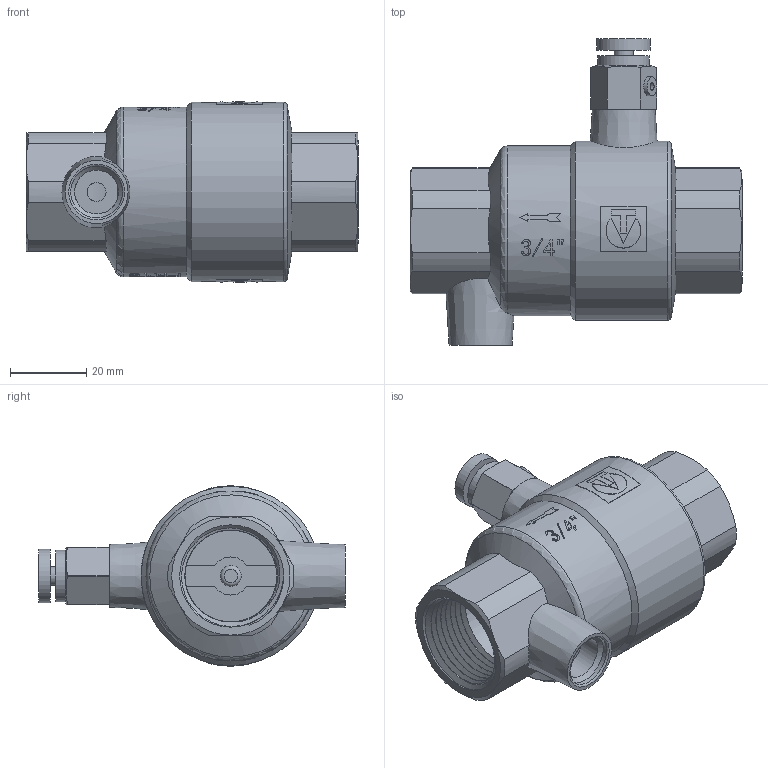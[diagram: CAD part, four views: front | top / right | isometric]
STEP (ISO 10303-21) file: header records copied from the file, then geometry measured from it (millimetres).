
FILE_DESCRIPTION(/* description */ (''),/* implementation_level */ '2;1');
FILE_NAME(/* name */ 'F:\Артём\00000\Работа удаленка\═╝╓╜\VT.171\VT.171.N.05.stp',/* time_stamp */ '2021-04-01T15:20:18+03:00',/* author */ ('almis'),/* organization */ (''),/* preprocessor_version */ 'ST-DEVELOPER v18',/* originating_system */ 'Autodesk Inventor 2020',/* authorisation */ '');
FILE_SCHEMA (('AUTOMOTIVE_DESIGN { 1 0 10303 214 3 1 1 }'));
Length unit declared in the file: millimetre
Products named in the file (1): VT.171.N.05
Bounding box: 87 x 80.35 x 47.2 mm (x, y, z)
Volume: 55197.9 mm3; surface area: 37498.6 mm2
Topology: 1 solids, 3 shells, 362 faces, 971 edges, 655 vertices
Faces by surface type: plane 179, cylinder 108, bspline 36, cone 29, torus 10
Full cylindrical faces by diameter (mm): 2 x1, 5 x3, 5.5 x3, 6 x1, 11 x1, 11.5 x2, 13.5 x1, 13.6 x1, 14 x1, 15.136 x1, 22 x1, 24.1 x12, 24.2 x1, 26 x1, 27.7 x14, 31.1 x1, 31.2 x1, 33 x1, 36.7 x1, 37 x1, 40.1 x1, 40.5 x1, 42.5 x3, 44.5 x1, 47 x1
Entity records: 17981 total; most frequent: CARTESIAN_POINT 9001, ORIENTED_EDGE 1946, DIRECTION 1791, EDGE_CURVE 973, AXIS2_PLACEMENT_3D 700, VERTEX_POINT 655, EDGE_LOOP 412, LINE 391
